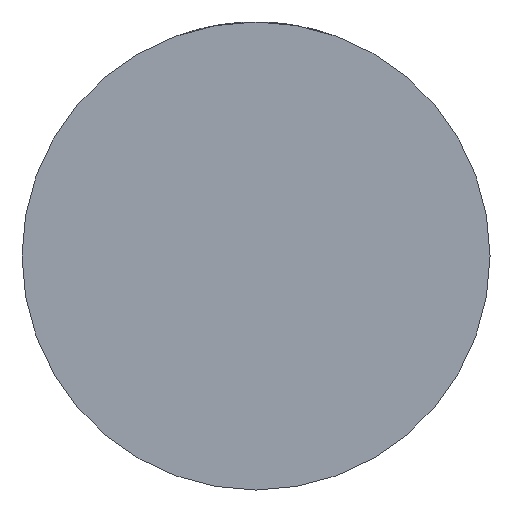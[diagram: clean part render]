
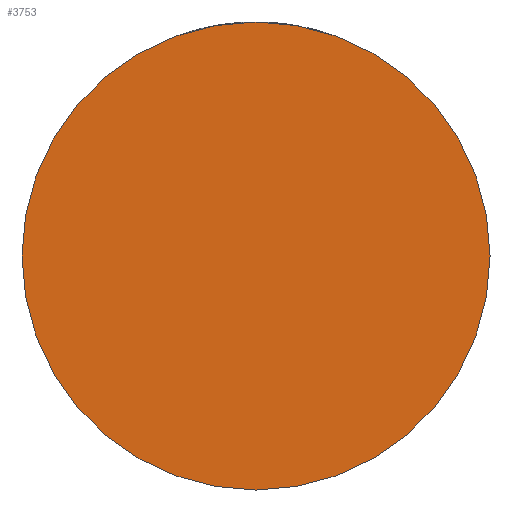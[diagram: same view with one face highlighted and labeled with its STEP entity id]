
A CAD part, front view. The second image highlights one B-rep face of the part: STEP entity #3753.
In plain terms, the highlighted planar face has unit normal (0, -1, 0).
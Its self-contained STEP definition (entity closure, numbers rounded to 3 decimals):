
#342 = CARTESIAN_POINT ( 'NONE',  ( 0., -26., 0. ) ) ;
#484 = DIRECTION ( 'NONE',  ( 0., -1., 0. ) ) ;
#1061 = DIRECTION ( 'NONE',  ( 1., 0., 0. ) ) ;
#1078 = CARTESIAN_POINT ( 'NONE',  ( 32.5, -26., 0. ) ) ;
#1156 = CARTESIAN_POINT ( 'NONE',  ( 0., -26., 0. ) ) ;
#1244 = CIRCLE ( 'NONE', #3648, 32.5 ) ;
#1322 = CARTESIAN_POINT ( 'NONE',  ( 0., -26., 0. ) ) ;
#1634 = VERTEX_POINT ( 'NONE', #1078 ) ;
#1769 = DIRECTION ( 'NONE',  ( 0., -1., 0. ) ) ;
#2015 = AXIS2_PLACEMENT_3D ( 'NONE', #1322, #3695, #2342 ) ;
#2342 = DIRECTION ( 'NONE',  ( 1., 0., 0. ) ) ;
#2597 = CARTESIAN_POINT ( 'NONE',  ( -32.5, -26., 0. ) ) ;
#2625 = PLANE ( 'NONE',  #2015 ) ;
#2718 = VERTEX_POINT ( 'NONE', #2597 ) ;
#2798 = CIRCLE ( 'NONE', #2869, 32.5 ) ;
#2813 = EDGE_CURVE ( 'NONE', #2718, #1634, #2798, .T. ) ;
#2869 = AXIS2_PLACEMENT_3D ( 'NONE', #342, #1769, #1061 ) ;
#2919 = EDGE_LOOP ( 'NONE', ( #4249, #4121 ) ) ;
#3648 = AXIS2_PLACEMENT_3D ( 'NONE', #1156, #484, #3948 ) ;
#3695 = DIRECTION ( 'NONE',  ( 0., -1., 0. ) ) ;
#3751 = EDGE_CURVE ( 'NONE', #1634, #2718, #1244, .T. ) ;
#3753 = ADVANCED_FACE ( 'NONE', ( #4305 ), #2625, .T. ) ;
#3948 = DIRECTION ( 'NONE',  ( 1., 0., 0. ) ) ;
#4121 = ORIENTED_EDGE ( 'NONE', *, *, #3751, .T. ) ;
#4249 = ORIENTED_EDGE ( 'NONE', *, *, #2813, .T. ) ;
#4305 = FACE_OUTER_BOUND ( 'NONE', #2919, .T. ) ;
